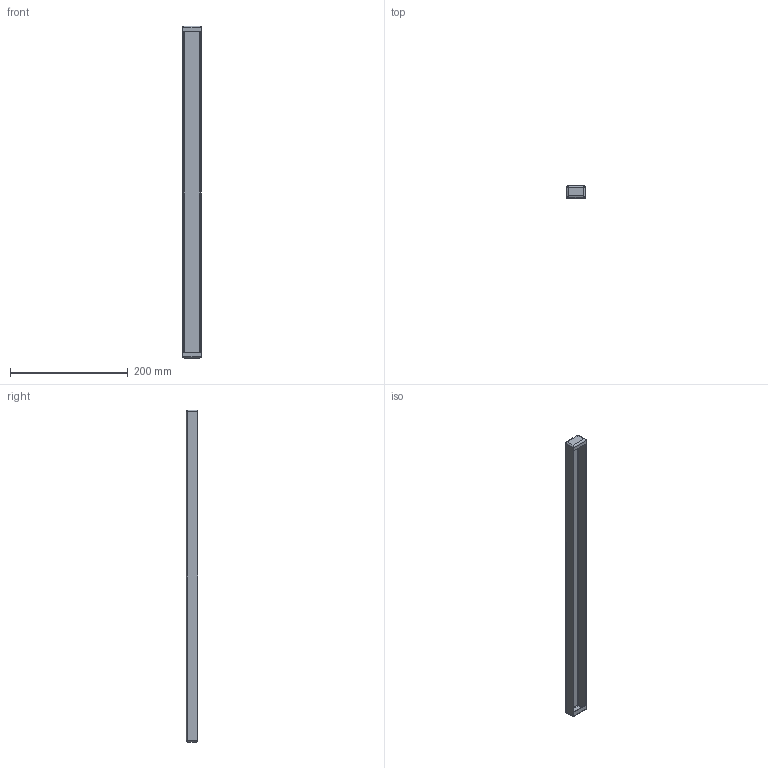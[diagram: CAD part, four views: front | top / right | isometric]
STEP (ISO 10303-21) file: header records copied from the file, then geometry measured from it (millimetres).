
FILE_DESCRIPTION (( 'STEP AP203' ), '1' );
FILE_NAME ('GB 60 R Ïëàíêà çàùèòíàÿ.STEP', '2013-01-09T15:49:40', ( 'System' ), ( '' ), 'SwSTEP 2.0', 'SolidWorks 2012', '' );
FILE_SCHEMA (( 'CONFIG_CONTROL_DESIGN' ));
Length unit declared in the file: millimetre
Products named in the file (1): GB 60 R Ïëàíêà çàùèòíàÿ
Bounding box: 32 x 20 x 564 mm (x, y, z)
Volume: 58798.1 mm3; surface area: 80127.2 mm2
Topology: 1 solids, 1 shells, 43 faces, 96 edges, 48 vertices
Faces by surface type: cylinder 20, plane 15, sphere 8
Entity records: 1167 total; most frequent: CARTESIAN_POINT 204, DIRECTION 192, ORIENTED_EDGE 176, EDGE_CURVE 88, AXIS2_PLACEMENT_3D 68, VECTOR 56, LINE 56, VERTEX_POINT 48
